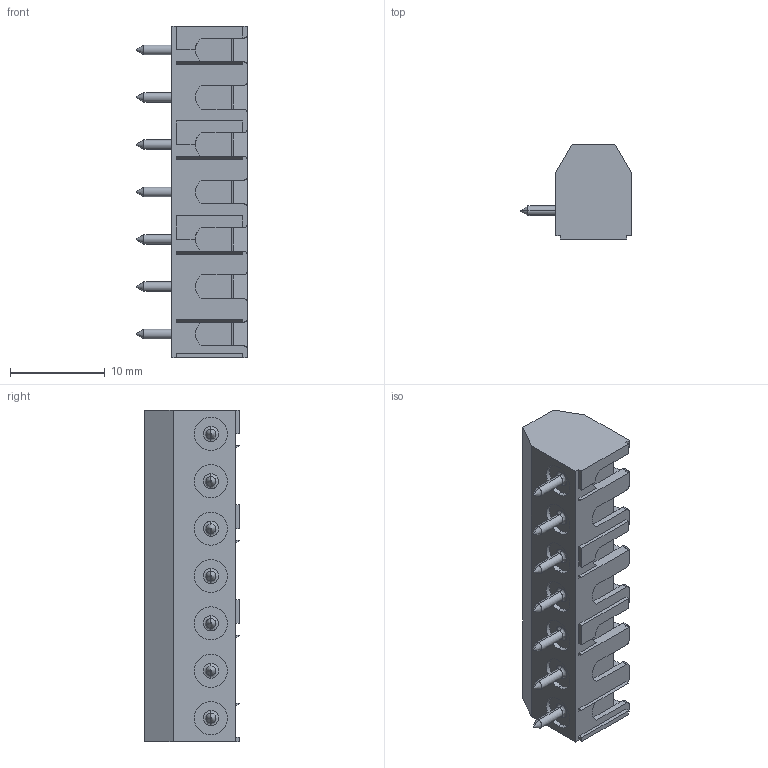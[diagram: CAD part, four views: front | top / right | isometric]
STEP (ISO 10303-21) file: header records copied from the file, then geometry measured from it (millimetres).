
FILE_DESCRIPTION (( 'STEP AP214' ), '1' );
FILE_NAME ('951-FB-07.STEP', '2008-03-12T02:13:54', ( ' ' ), ( '' ), 'SwSTEP 2.0', 'SolidWorks 2007', '' );
FILE_SCHEMA (( 'AUTOMOTIVE_DESIGN' ));
Length unit declared in the file: millimetre
Products named in the file (1): 951-FB-07
Bounding box: 11.7 x 10 x 35 mm (x, y, z)
Volume: 1895.2 mm3; surface area: 2126.2 mm2
Topology: 1 solids, 1 shells, 610 faces, 1756 edges, 1141 vertices
Faces by surface type: plane 404, cylinder 157, cone 35, bspline 12, torus 2
Entity records: 20960 total; most frequent: CARTESIAN_POINT 4920, ORIENTED_EDGE 3512, DIRECTION 3185, EDGE_CURVE 1756, VECTOR 1225, LINE 1225, VERTEX_POINT 1141, AXIS2_PLACEMENT_3D 980
